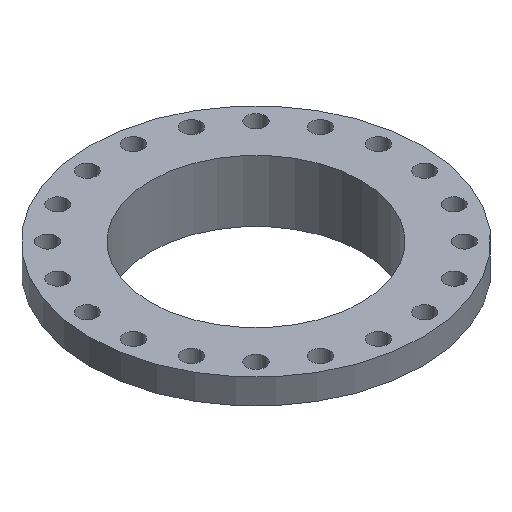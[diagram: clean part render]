
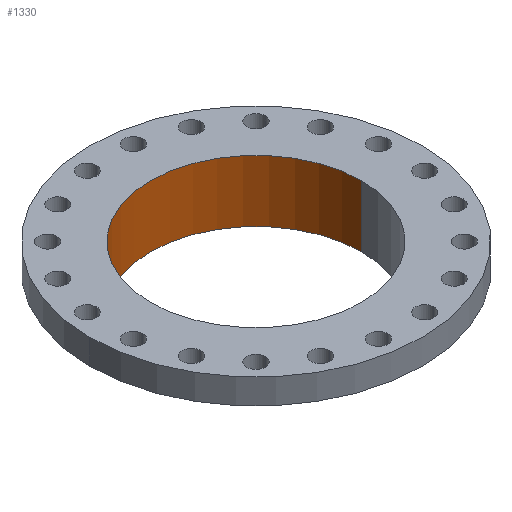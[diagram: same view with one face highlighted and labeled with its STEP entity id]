
A CAD part, isometric view. The second image highlights one B-rep face of the part: STEP entity #1330.
In plain terms, the highlighted cylindrical face has radius 239.8 mm (diameter 479.6 mm), a partial arc.
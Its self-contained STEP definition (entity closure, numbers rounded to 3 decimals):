
#41 = CARTESIAN_POINT ( 'NONE',  ( -239.8, 0., -140. ) ) ;
#58 = CARTESIAN_POINT ( 'NONE',  ( 239.8, 0., 0. ) ) ;
#143 = EDGE_CURVE ( 'NONE', #1725, #1421, #382, .T. ) ;
#165 = VECTOR ( 'NONE', #586, 1000. ) ;
#183 = EDGE_CURVE ( 'NONE', #1178, #1725, #1061, .T. ) ;
#330 = CARTESIAN_POINT ( 'NONE',  ( 239.8, 0., -140. ) ) ;
#362 = DIRECTION ( 'NONE',  ( -1., 0., 0. ) ) ;
#363 = DIRECTION ( 'NONE',  ( 0., 0., -1. ) ) ;
#364 = CARTESIAN_POINT ( 'NONE',  ( 0., 0., -150. ) ) ;
#366 = CYLINDRICAL_SURFACE ( 'NONE', #1826, 239.8 ) ;
#367 = FACE_OUTER_BOUND ( 'NONE', #1764, .T. ) ;
#382 = CIRCLE ( 'NONE', #388, 239.8 ) ;
#388 = AXIS2_PLACEMENT_3D ( 'NONE', #1096, #1095, #1094 ) ;
#511 = CARTESIAN_POINT ( 'NONE',  ( -239.8, 0., 0. ) ) ;
#519 = EDGE_CURVE ( 'NONE', #1178, #1706, #1248, .T. ) ;
#586 = DIRECTION ( 'NONE',  ( 0., 0., -1. ) ) ;
#588 = CARTESIAN_POINT ( 'NONE',  ( 239.8, 0., -150. ) ) ;
#589 = LINE ( 'NONE', #588, #165 ) ;
#902 = DIRECTION ( 'NONE',  ( -1., 0., 0. ) ) ;
#903 = DIRECTION ( 'NONE',  ( 0., 0., -1. ) ) ;
#904 = CARTESIAN_POINT ( 'NONE',  ( 0., 0., 0. ) ) ;
#1059 = DIRECTION ( 'NONE',  ( 0., 0., -1. ) ) ;
#1060 = CARTESIAN_POINT ( 'NONE',  ( -239.8, 0., -150. ) ) ;
#1061 = LINE ( 'NONE', #1060, #1277 ) ;
#1074 = EDGE_CURVE ( 'NONE', #1706, #1421, #589, .T. ) ;
#1094 = DIRECTION ( 'NONE',  ( -1., 0., 0. ) ) ;
#1095 = DIRECTION ( 'NONE',  ( 0., 0., -1. ) ) ;
#1096 = CARTESIAN_POINT ( 'NONE',  ( 0., 0., -140. ) ) ;
#1178 = VERTEX_POINT ( 'NONE', #511 ) ;
#1248 = CIRCLE ( 'NONE', #1542, 239.8 ) ;
#1277 = VECTOR ( 'NONE', #1059, 1000. ) ;
#1330 = ADVANCED_FACE ( 'NONE', ( #367 ), #366, .F. ) ;
#1421 = VERTEX_POINT ( 'NONE', #330 ) ;
#1455 = ORIENTED_EDGE ( 'NONE', *, *, #143, .T. ) ;
#1457 = ORIENTED_EDGE ( 'NONE', *, *, #183, .T. ) ;
#1458 = ORIENTED_EDGE ( 'NONE', *, *, #1074, .F. ) ;
#1542 = AXIS2_PLACEMENT_3D ( 'NONE', #904, #903, #902 ) ;
#1706 = VERTEX_POINT ( 'NONE', #58 ) ;
#1725 = VERTEX_POINT ( 'NONE', #41 ) ;
#1764 = EDGE_LOOP ( 'NONE', ( #1458, #1910, #1457, #1455 ) ) ;
#1826 = AXIS2_PLACEMENT_3D ( 'NONE', #364, #363, #362 ) ;
#1910 = ORIENTED_EDGE ( 'NONE', *, *, #519, .F. ) ;
